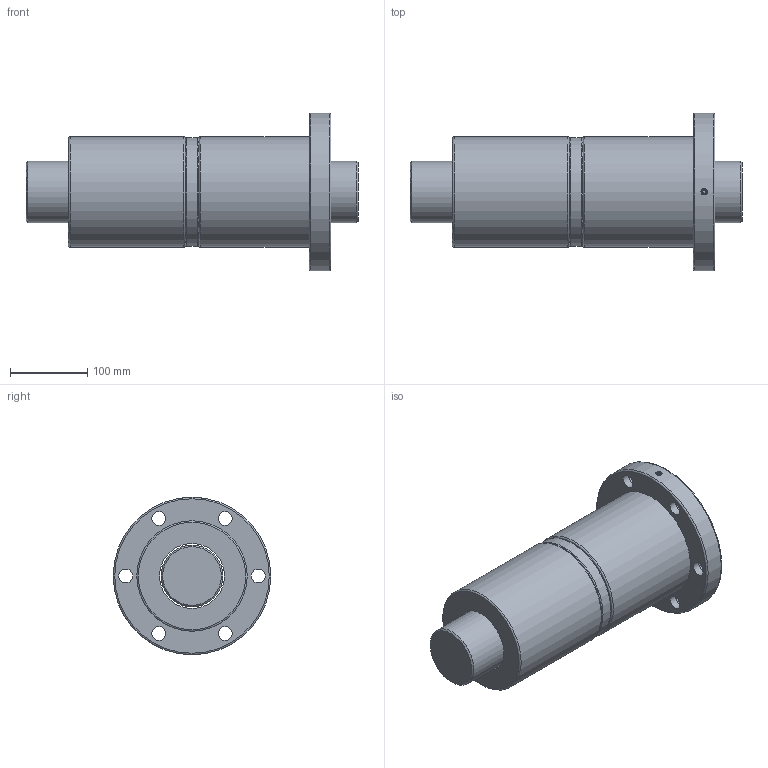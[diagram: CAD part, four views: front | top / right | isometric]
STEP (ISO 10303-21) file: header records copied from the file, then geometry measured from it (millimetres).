
FILE_DESCRIPTION(/* description */ ('Unknown','CAx-IF Rec.Pracs.---Representation and Presentation of Product Manufacturing Information (PMI)---4.0---2014-10-13','CAx-IF Rec.Pracs.---3D Tessellated Geometry---0.4---2014-09-14','2;1'),/* implementation_level */ '2;1');
FILE_NAME(/* name */ 'DFV08020',/* time_stamp */ '2020-12-08T12:08:28+08:00',/* author */ ('Unknown'),/* organization */ ('Unknown'),/* preprocessor_version */ 'ST-DEVELOPER v16.7',/* originating_system */ 'Solid Edge',/* authorisation */ 'Unknown');
FILE_SCHEMA (('AP242_MANAGED_MODEL_BASED_3D_ENGINEERING_MIM_LF { 1 0 10303 442 1 1 4 }'));
Length unit declared in the file: millimetre
Products named in the file (1): DFV08020
Bounding box: 430 x 204 x 204 mm (x, y, z)
Volume: 6117656.3 mm3; surface area: 430973.1 mm2
Topology: 2 solids, 2 shells, 48 faces, 99 edges, 64 vertices
Faces by surface type: cylinder 22, plane 14, torus 7, cone 3, bspline 2
Full cylindrical faces by diameter (mm): 4 x1, 6.917 x1, 18 x6, 26 x6, 80 x1, 84 x1, 141 x1, 143 x2, 204 x1
Entity records: 2998 total; most frequent: CARTESIAN_POINT 2026, DIRECTION 200, ORIENTED_EDGE 122, EDGE_LOOP 103, FACE_BOUND 103, AXIS2_PLACEMENT_3D 101, EDGE_CURVE 61, VERTEX_POINT 56
